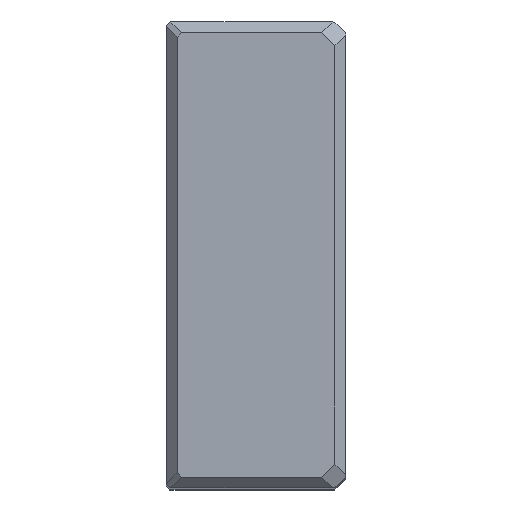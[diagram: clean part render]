
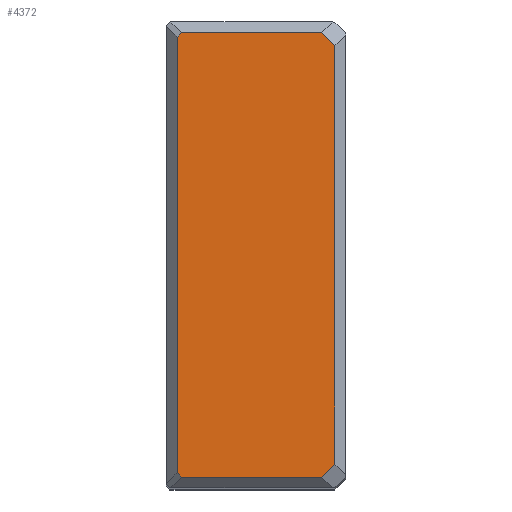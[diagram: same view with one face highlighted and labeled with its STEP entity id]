
A CAD part, top view. The second image highlights one B-rep face of the part: STEP entity #4372.
In plain terms, the highlighted planar face has unit normal (0, 0, 1).
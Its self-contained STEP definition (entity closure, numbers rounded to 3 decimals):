
#130=VERTEX_POINT(' ',#131);
#131=CARTESIAN_POINT('',(-3.,-58.326,0.));
#132=VERTEX_POINT(' ',#133);
#133=CARTESIAN_POINT('',(-6.674,-62.,0.));
#162=VERTEX_POINT(' ',#163);
#163=CARTESIAN_POINT('',(-3.,58.326,0.));
#170=VERTEX_POINT(' ',#171);
#171=CARTESIAN_POINT('',(-6.674,62.,0.));
#196=VERTEX_POINT(' ',#197);
#197=CARTESIAN_POINT('',(-45.775,-62.,0.));
#204=VERTEX_POINT(' ',#205);
#205=CARTESIAN_POINT('',(-47.,-60.775,0.));
#224=VERTEX_POINT(' ',#225);
#225=CARTESIAN_POINT('',(-47.,60.775,0.));
#228=VERTEX_POINT(' ',#229);
#229=CARTESIAN_POINT('',(-45.775,62.,0.));
#935=LINE('',#936,#937);
#936=CARTESIAN_POINT('',(27.663,-27.663,0.));
#937=VECTOR('',#938,1.);
#938=DIRECTION('',(0.707,0.707,0.));
#939=EDGE_CURVE(' ',#130,#132,#935,.F.);
#1065=LINE('',#1066,#1067);
#1066=CARTESIAN_POINT('',(-3.,-65.12,0.));
#1067=VECTOR('',#1068,1.);
#1068=DIRECTION('',(0.,1.,0.));
#1069=EDGE_CURVE(' ',#130,#162,#1065,.T.);
#1090=LINE('',#1091,#1092);
#1091=CARTESIAN_POINT('',(27.663,27.663,0.));
#1092=VECTOR('',#1093,1.);
#1093=DIRECTION('',(-0.707,0.707,0.));
#1094=EDGE_CURVE(' ',#170,#162,#1090,.F.);
#1235=LINE('',#1236,#1237);
#1236=CARTESIAN_POINT('',(-50.12,-62.,0.));
#1237=VECTOR('',#1238,1.);
#1238=DIRECTION('',(1.,0.,0.));
#1239=EDGE_CURVE(' ',#196,#132,#1235,.T.);
#1250=LINE('',#1251,#1252);
#1251=CARTESIAN_POINT('',(-53.888,-53.888,0.));
#1252=VECTOR('',#1253,1.);
#1253=DIRECTION('',(0.707,-0.707,0.));
#1254=EDGE_CURVE(' ',#196,#204,#1250,.F.);
#1347=LINE('',#1348,#1349);
#1348=CARTESIAN_POINT('',(-47.,-65.12,0.));
#1349=VECTOR('',#1350,1.);
#1350=DIRECTION('',(0.,1.,0.));
#1351=EDGE_CURVE(' ',#204,#224,#1347,.T.);
#1352=LINE('',#1353,#1354);
#1353=CARTESIAN_POINT('',(-53.888,53.888,0.));
#1354=VECTOR('',#1355,1.);
#1355=DIRECTION('',(-0.707,-0.707,0.));
#1356=EDGE_CURVE(' ',#224,#228,#1352,.F.);
#1357=LINE('',#1358,#1359);
#1358=CARTESIAN_POINT('',(-50.12,62.,0.));
#1359=VECTOR('',#1360,1.);
#1360=DIRECTION('',(1.,0.,0.));
#1361=EDGE_CURVE(' ',#170,#228,#1357,.F.);
#4357=ORIENTED_EDGE('',*,*,#1356,.F.);
#4358=ORIENTED_EDGE('',*,*,#1351,.F.);
#4359=ORIENTED_EDGE('',*,*,#1254,.F.);
#4360=ORIENTED_EDGE('',*,*,#1239,.T.);
#4361=ORIENTED_EDGE('',*,*,#939,.F.);
#4362=ORIENTED_EDGE('',*,*,#1069,.T.);
#4363=ORIENTED_EDGE('',*,*,#1094,.F.);
#4364=ORIENTED_EDGE('',*,*,#1361,.T.);
#4365=EDGE_LOOP('',(#4357,#4358,#4359,#4360,#4361,#4362,#4363,#4364));
#4366=FACE_OUTER_BOUND('',#4365,.T.);
#4367=PLANE('',#4368);
#4368=AXIS2_PLACEMENT_3D('',#4369,#4370,#4371);
#4369=CARTESIAN_POINT('',(-47.,0.,0.));
#4370=DIRECTION('',(0.,0.,1.));
#4371=DIRECTION('',(1.,0.,0.));
#4372=ADVANCED_FACE('',(#4366),#4367,.T.);
